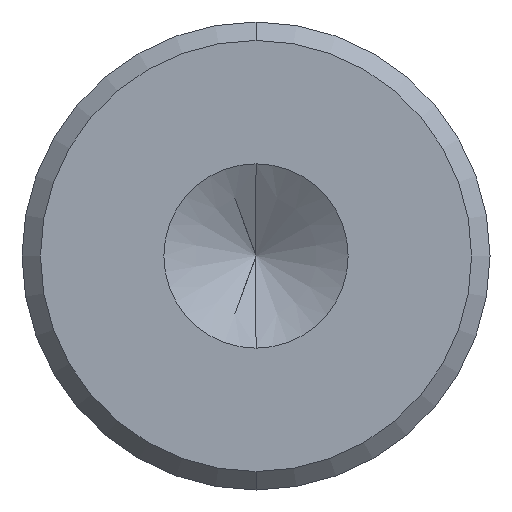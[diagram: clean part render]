
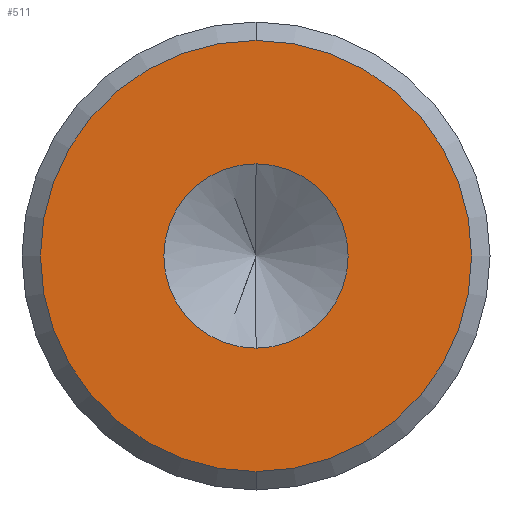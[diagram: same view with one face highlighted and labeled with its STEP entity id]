
A CAD part, front view. The second image highlights one B-rep face of the part: STEP entity #511.
In plain terms, the highlighted planar face has unit normal (0, -1, 0).
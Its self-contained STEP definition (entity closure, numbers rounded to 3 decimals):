
#6 = EDGE_CURVE ( 'NONE', #419, #432, #347, .T. ) ;
#16 = CARTESIAN_POINT ( 'NONE',  ( 0., 0., 0. ) ) ;
#51 = AXIS2_PLACEMENT_3D ( 'NONE', #236, #161, #439 ) ;
#53 = EDGE_LOOP ( 'NONE', ( #524, #115 ) ) ;
#59 = AXIS2_PLACEMENT_3D ( 'NONE', #281, #113, #189 ) ;
#85 = VERTEX_POINT ( 'NONE', #122 ) ;
#110 = CARTESIAN_POINT ( 'NONE',  ( 0., 0., 2.5 ) ) ;
#113 = DIRECTION ( 'NONE',  ( 0., 1., 0. ) ) ;
#115 = ORIENTED_EDGE ( 'NONE', *, *, #337, .F. ) ;
#122 = CARTESIAN_POINT ( 'NONE',  ( 0., 0., -2.5 ) ) ;
#146 = CARTESIAN_POINT ( 'NONE',  ( 0., 0., 0. ) ) ;
#156 = DIRECTION ( 'NONE',  ( 0., -1., 0. ) ) ;
#159 = EDGE_CURVE ( 'NONE', #432, #419, #446, .T. ) ;
#161 = DIRECTION ( 'NONE',  ( 0., -1., 0. ) ) ;
#175 = DIRECTION ( 'NONE',  ( 0., -1., 0. ) ) ;
#189 = DIRECTION ( 'NONE',  ( 0., 0., 1. ) ) ;
#196 = PLANE ( 'NONE',  #59 ) ;
#199 = CARTESIAN_POINT ( 'NONE',  ( 0., 0., 5.85 ) ) ;
#200 = CARTESIAN_POINT ( 'NONE',  ( 0., 0., 0. ) ) ;
#230 = ORIENTED_EDGE ( 'NONE', *, *, #6, .T. ) ;
#236 = CARTESIAN_POINT ( 'NONE',  ( 0., 0., 0. ) ) ;
#254 = ORIENTED_EDGE ( 'NONE', *, *, #159, .T. ) ;
#257 = AXIS2_PLACEMENT_3D ( 'NONE', #200, #495, #323 ) ;
#267 = FACE_OUTER_BOUND ( 'NONE', #389, .T. ) ;
#281 = CARTESIAN_POINT ( 'NONE',  ( 0., 0., 0. ) ) ;
#318 = CARTESIAN_POINT ( 'NONE',  ( 0., 0., -5.85 ) ) ;
#323 = DIRECTION ( 'NONE',  ( 0., 0., 1. ) ) ;
#336 = AXIS2_PLACEMENT_3D ( 'NONE', #146, #156, #447 ) ;
#337 = EDGE_CURVE ( 'NONE', #465, #85, #461, .T. ) ;
#347 = CIRCLE ( 'NONE', #257, 5.85 ) ;
#389 = EDGE_LOOP ( 'NONE', ( #254, #230 ) ) ;
#419 = VERTEX_POINT ( 'NONE', #318 ) ;
#432 = VERTEX_POINT ( 'NONE', #199 ) ;
#439 = DIRECTION ( 'NONE',  ( 0., 0., -1. ) ) ;
#446 = CIRCLE ( 'NONE', #526, 5.85 ) ;
#447 = DIRECTION ( 'NONE',  ( 0., 0., -1. ) ) ;
#449 = EDGE_CURVE ( 'NONE', #85, #465, #456, .T. ) ;
#456 = CIRCLE ( 'NONE', #336, 2.5 ) ;
#461 = CIRCLE ( 'NONE', #51, 2.5 ) ;
#465 = VERTEX_POINT ( 'NONE', #110 ) ;
#495 = DIRECTION ( 'NONE',  ( 0., -1., 0. ) ) ;
#511 = ADVANCED_FACE ( 'NONE', ( #267, #535 ), #196, .F. ) ;
#516 = DIRECTION ( 'NONE',  ( 0., 0., 1. ) ) ;
#524 = ORIENTED_EDGE ( 'NONE', *, *, #449, .F. ) ;
#526 = AXIS2_PLACEMENT_3D ( 'NONE', #16, #175, #516 ) ;
#535 = FACE_BOUND ( 'NONE', #53, .T. ) ;
